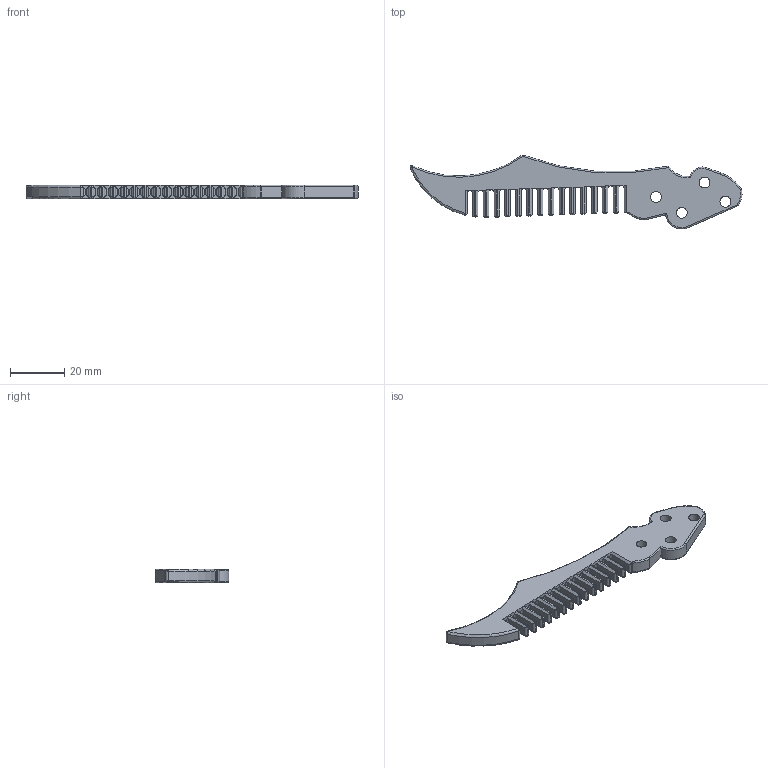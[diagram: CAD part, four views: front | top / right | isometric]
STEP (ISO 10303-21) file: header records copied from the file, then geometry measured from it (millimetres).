
FILE_DESCRIPTION(/* description */ (''),/* implementation_level */ '2;1');
FILE_NAME(/* name */ 'D:\STEP files\blade comb.stp',/* time_stamp */ '2020-08-13T23:46:46+02:00',/* author */ ('Vít Budina'),/* organization */ (''),/* preprocessor_version */ 'ST-DEVELOPER v18',/* originating_system */ 'Autodesk Inventor 2020',/* authorisation */ '');
FILE_SCHEMA (('AUTOMOTIVE_DESIGN { 1 0 10303 214 3 1 1 }'));
Length unit declared in the file: millimetre
Products named in the file (1): blade comb
Bounding box: 122.56 x 27.28 x 5 mm (x, y, z)
Volume: 7938.3 mm3; surface area: 5930.6 mm2
Topology: 1 solids, 1 shells, 309 faces, 779 edges, 470 vertices
Faces by surface type: plane 124, cylinder 115, sphere 42, torus 24, bspline 4
Full cylindrical faces by diameter (mm): 4 x4
Entity records: 9493 total; most frequent: CARTESIAN_POINT 1852, DIRECTION 1705, ORIENTED_EDGE 1554, EDGE_CURVE 777, AXIS2_PLACEMENT_3D 642, VERTEX_POINT 470, LINE 421, VECTOR 421
